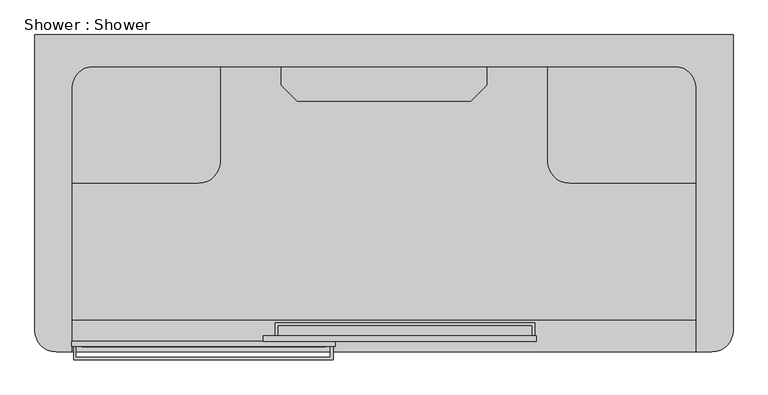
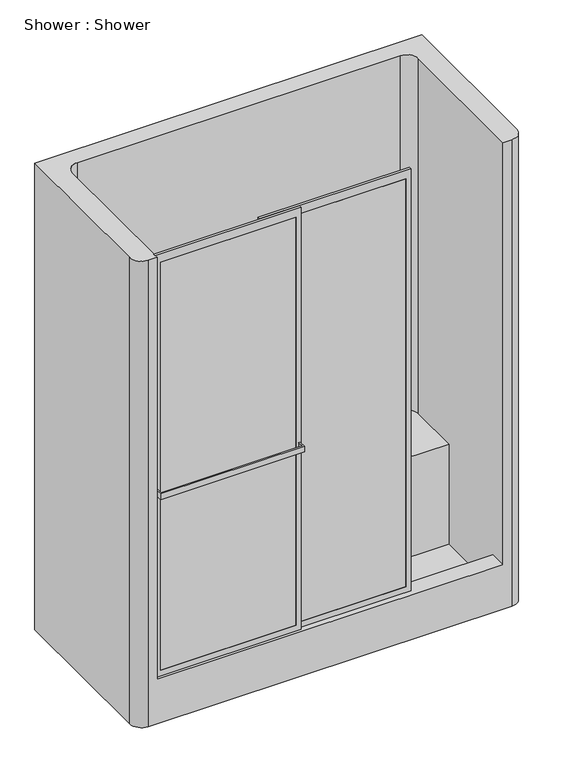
"""IFC4 building model written with IfcOpenShell, lengths in millimetres: flow terminal geometry, Shower : Shower."""

from ifc_helpers import new_model, si_unit, point, frame, frame_2d, origin, place, context, project, spatial, polyline, circle_curve, trimmed, segment, composite_curve, outline, extrude, faceted_brep, source, transform, mapped, element, save
from ifc_brep_helpers import plane_surface, cylinder_surface, revolved_surface, advanced_brep


def shower_shower_a77f1988(model_context):
    return source(origin(), model_context, "Body", "SolidModel", [
        extrude(outline(polyline([(-223.04375, -768.35), (399.9789404, -768.35), (399.9789404, -800.1), (393.6289404, -800.1), (393.6289404, -774.7), (-217.4344719, -774.7), (-217.4344719, -800.1), (-223.04375, -800.1), (-223.04375, -768.35)])), frame((0.0, 0.0, 1036.0429691), z_axis=(0.0, 0.0, 1.0), x_axis=(1.0, 0.0, 0.0)), (0.0, 0.0, 1.0), 25.4),
        extrude(outline(polyline([(-707.23125, -857.25), (-707.23125, -825.5), (-701.6219719, -825.5), (-701.6219719, -850.9), (-90.5585596, -850.9), (-90.5585596, -825.5), (-84.2085596, -825.5), (-84.2085596, -857.25), (-707.23125, -857.25)])), frame((0.0, 0.0, 1036.0429691), z_axis=(0.0, 0.0, 1.0), x_axis=(1.0, 0.0, 0.0)), (0.0, 0.0, 1.0), 25.4),
        extrude(outline(polyline([(2133.6, 403.1759501), (2133.6, -251.8674756), (203.2, -251.8674756), (203.2, 403.1759501), (2133.6, 403.1759501)]), holes=[polyline([(2095.2762363, 381.0), (229.410232, 381.0), (229.410232, -228.6), (2095.2762363, -228.6), (2095.2762363, 381.0)])]), frame((0.0, -812.8, 0.0), z_axis=(0.0, 1.0, 0.0), x_axis=(0.0, 0.0, 1.0)), (0.0, 0.0, 1.0), 12.7),
        extrude(outline(polyline([(381.0, -812.8), (-228.6, -812.8), (-228.6, -800.1), (381.0, -800.1), (381.0, -812.8)])), frame((0.0, 0.0, 229.410232), z_axis=(0.0, 0.0, 1.0), x_axis=(1.0, 0.0, 0.0)), (0.0, 0.0, 1.0), 1865.8660043),
        extrude(outline(polyline([(2133.6, -79.095103), (2133.6, -711.2), (203.2, -711.2), (203.2, -79.095103), (2133.6, -79.095103)]), holes=[polyline([(2095.2762363, -101.6), (229.410232, -101.6), (229.410232, -687.4742901), (2095.2762363, -687.4742901), (2095.2762363, -101.6)])]), frame((0.0, -825.5, 0.0), z_axis=(0.0, 1.0, 0.0), x_axis=(0.0, 0.0, 1.0)), (0.0, 0.0, 1.0), 12.7),
        extrude(outline(polyline([(-101.6, -825.5), (-687.4742901, -825.5), (-687.4742901, -812.8), (-101.6, -812.8), (-101.6, -825.5)])), frame((0.0, 0.0, 229.410232), z_axis=(0.0, 0.0, 1.0), x_axis=(1.0, 0.0, 0.0)), (0.0, 0.0, 1.0), 1865.8660043),
        faceted_brep([(-208.4605122, -196.85, 1389.3112655), (-170.3605122, -234.95, 1389.3112655), (246.5605122, -234.95, 1389.3112655), (284.6605122, -196.85, 1389.3112655), (284.6605122, -152.4, 1389.3112655), (-208.4605122, -152.4, 1389.3112655), (-208.4605122, -196.85, 625.0857334), (-208.4605122, -152.4, 625.0857334), (284.6605122, -152.4, 625.0857334), (284.6605122, -196.85, 625.0857334), (246.5605122, -234.95, 625.0857334), (-170.3605122, -234.95, 625.0857334), (-170.3605122, -234.95, 660.4), (-190.5, -214.8105122, 660.4), (-190.5, -214.8105122, 863.6), (-170.3605122, -234.95, 863.6), (-170.3605122, -234.95, 908.05), (-190.5, -214.8105122, 908.05), (-190.5, -214.8105122, 1111.25), (-170.3605122, -234.95, 1111.25), (-170.3605122, -234.95, 1162.05), (-190.5, -214.8105122, 1162.05), (-190.5, -214.8105122, 1365.25), (-170.3605122, -234.95, 1365.25), (246.5605122, -234.95, 1365.25), (246.5605122, -234.95, 660.4), (246.5605122, -234.95, 863.6), (246.5605122, -234.95, 908.05), (246.5605122, -234.95, 1111.25), (246.5605122, -234.95, 1162.05), (266.7, -214.8105122, 1365.25), (266.7, -214.8105122, 1162.05), (266.7, -214.8105122, 1111.25), (266.7, -214.8105122, 908.05), (266.7, -214.8105122, 863.6), (266.7, -214.8105122, 660.4), (266.7, -163.5489759, 660.4), (266.7, -163.5489759, 863.6), (-190.5, -163.5489759, 863.6), (-190.5, -163.5489759, 660.4), (266.7, -163.5489759, 908.05), (266.7, -163.5489759, 1111.25), (-190.5, -163.5489759, 1111.25), (-190.5, -163.5489759, 908.05), (266.7, -163.5489759, 1162.05), (266.7, -163.5489759, 1365.25), (-190.5, -163.5489759, 1365.25), (-190.5, -163.5489759, 1162.05)], [[[0, 1, 2, 3, 4, 5]], [[6, 7, 8, 9, 10, 11]], [[1, 0, 6, 11, 12, 13, 14, 15, 16, 17, 18, 19, 20, 21, 22, 23]], [[2, 1, 23, 24]], [[11, 10, 25, 12]], [[16, 15, 26, 27]], [[20, 19, 28, 29]], [[3, 2, 24, 30, 31, 29, 28, 32, 33, 27, 26, 34, 35, 25, 10, 9]], [[4, 3, 9, 8]], [[5, 4, 8, 7]], [[0, 5, 7, 6]], [[36, 37, 38, 39]], [[40, 41, 42, 43]], [[44, 45, 46, 47]], [[36, 39, 13, 12, 25, 35]], [[39, 38, 14, 13]], [[38, 37, 34, 26, 15, 14]], [[37, 36, 35, 34]], [[40, 43, 17, 16, 27, 33]], [[43, 42, 18, 17]], [[42, 41, 32, 28, 19, 18]], [[41, 40, 33, 32]], [[44, 47, 21, 20, 29, 31]], [[47, 46, 22, 21]], [[46, 45, 30, 24, 23, 22]], [[45, 44, 31, 30]]]),
        extrude(outline(composite_curve([segment(polyline([(-406.4, -431.8), (-711.2, -431.8), (-711.2, -152.4), (-355.6, -152.4), (-355.6, -381.0)]), True, "CONTINUOUS"), segment(trimmed(circle_curve(frame_2d((-406.4, -381.0)), 50.8), [point((-355.6, -381.0))], [point((-406.4, -431.8))], False, "CARTESIAN"), True, "CONTINUOUS")], self_intersect=False)), frame((0.0, 0.0, 50.8), z_axis=(0.0, 0.0, 1.0), x_axis=(1.0, 0.0, 0.0)), (0.0, 0.0, 1.0), 457.2),
        extrude(outline(composite_curve([segment(trimmed(circle_curve(frame_2d((482.6, -381.0)), 50.8), [point((482.6, -431.8))], [point((431.8, -381.0))], False, "CARTESIAN"), True, "CONTINUOUS"), segment(polyline([(431.8, -381.0), (431.8, -152.4), (787.4, -152.4), (787.4, -431.8), (482.6, -431.8)]), True, "CONTINUOUS")], self_intersect=False)), frame((0.0, 0.0, 50.8), z_axis=(0.0, 0.0, 1.0), x_axis=(1.0, 0.0, 0.0)), (0.0, 0.0, 1.0), 457.2),
        advanced_brep(
        [(-800.1, -787.4, 2133.6), (-749.3, -838.2, 2133.6), (-711.2, -838.2, 2133.6), (-711.2, -203.2, 2133.6), (-660.4, -152.4, 2133.6), (736.6, -152.4, 2133.6), (787.4, -203.2, 2133.6), (787.4, -838.2, 2133.6), (825.5, -838.2, 2133.6), (876.3, -787.4, 2133.6), (876.3, -76.2, 2133.6), (-800.1, -76.2, 2133.6), (-800.1, -787.4, 0.0), (-800.1, -76.2, 0.0), (876.3, -76.2, 0.0), (876.3, -787.4, 0.0), (825.5, -838.2, 0.0), (-749.3, -838.2, 0.0), (787.4, -838.2, 203.2), (-711.2, -838.2, 203.2), (787.4, -762.0, 203.2), (-711.2, -762.0, 203.2), (787.4, -203.2, 203.2), (787.4, -152.4, 203.2), (787.4, -152.4, 50.8), (787.4, -762.0, 50.8), (-711.2, -203.2, 203.2), (-711.2, -762.0, 50.8), (-711.2, -152.4, 50.8), (-711.2, -152.4, 203.2), (-660.4, -152.4, 203.2), (736.6, -152.4, 203.2)],
        [
            (0, 1, circle_curve(frame((-749.3, -787.4, 2133.6), z_axis=(0.0, 0.0, 1.0), x_axis=(1.0, 0.0, 0.0)), 50.8)),
            (1, 2),
            (2, 3),
            (3, 4, circle_curve(frame((-660.4, -203.2, 2133.6), z_axis=(0.0, 0.0, -1.0), x_axis=(-1.0, 0.0, 0.0)), 50.8)),
            (4, 5),
            (5, 6, circle_curve(frame((736.6, -203.2, 2133.6), z_axis=(0.0, 0.0, -1.0), x_axis=(-1.0, 0.0, 0.0)), 50.8)),
            (6, 7),
            (7, 8),
            (8, 9, circle_curve(frame((825.5, -787.4, 2133.6), z_axis=(0.0, 0.0, 1.0), x_axis=(1.0, 0.0, 0.0)), 50.8)),
            (9, 10),
            (10, 11),
            (11, 0),
            (12, 13),
            (13, 14),
            (14, 15),
            (15, 16, circle_curve(frame((825.5, -787.4, 0.0), z_axis=(0.0, 0.0, -1.0), x_axis=(1.0, 0.0, 0.0)), 50.8)),
            (16, 17),
            (17, 12, circle_curve(frame((-749.3, -787.4, 0.0), z_axis=(0.0, 0.0, -1.0), x_axis=(1.0, 0.0, 0.0)), 50.8)),
            (0, 12),
            (17, 1),
            (16, 8),
            (7, 18),
            (18, 19),
            (19, 2),
            (15, 9),
            (14, 10),
            (13, 11),
            (18, 20),
            (20, 21),
            (21, 19),
            (6, 22),
            (22, 23),
            (23, 24),
            (24, 25),
            (25, 20),
            (26, 3),
            (21, 27),
            (27, 28),
            (28, 29),
            (29, 26),
            (26, 30, circle_curve(frame((-660.4, -203.2, 203.2), z_axis=(0.0, 0.0, -1.0), x_axis=(-1.0, 0.0, 0.0)), 50.8)),
            (30, 4),
            (30, 29),
            (28, 24),
            (23, 31),
            (31, 5),
            (31, 22, circle_curve(frame((736.6, -203.2, 203.2), z_axis=(0.0, 0.0, -1.0), x_axis=(-1.0, 0.0, 0.0)), 50.8)),
            (27, 25),
        ],
        [
            plane_surface(frame((-698.5, -787.4, 2133.6), z_axis=(0.0, 0.0, 1.0), x_axis=(0.0, 1.0, 0.0))),
            plane_surface(frame((-698.5, -787.4, 0.0), z_axis=(0.0, 0.0, -1.0), x_axis=(0.0, -1.0, 0.0))),
            cylinder_surface(frame((-749.3, -787.4, 0.0), z_axis=(0.0, 0.0, 1.0), x_axis=(1.0, 0.0, 0.0)), 50.8),
            plane_surface(frame((-749.3, -838.2, 2133.6), z_axis=(0.0, -1.0, 0.0), x_axis=(0.0, 0.0, -1.0))),
            cylinder_surface(frame((825.5, -787.4, 0.0), z_axis=(0.0, 0.0, 1.0), x_axis=(1.0, 0.0, 0.0)), 50.8),
            plane_surface(frame((876.3, -787.4, 2133.6), z_axis=(1.0, 0.0, 0.0), x_axis=(0.0, 0.0, -1.0))),
            plane_surface(frame((876.3, -76.2, 2133.6), z_axis=(0.0, 1.0, 0.0), x_axis=(0.0, 0.0, -1.0))),
            plane_surface(frame((-800.1, -76.2, 2133.6), z_axis=(-1.0, 0.0, 0.0), x_axis=(0.0, 0.0, -1.0))),
            plane_surface(frame((787.4, -685.8, 203.2), z_axis=(0.0, 0.0, 1.0), x_axis=(0.0, -1.0, 0.0))),
            plane_surface(frame((787.4, -203.2, 203.2), z_axis=(-1.0, 0.0, 0.0), x_axis=(0.0, 0.0, 1.0))),
            plane_surface(frame((-711.2, -838.2, 203.2), z_axis=(1.0, 0.0, 0.0), x_axis=(0.0, 0.0, 1.0))),
            revolved_surface(polyline([(-711.1999999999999, -203.2, 203.20000000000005), (-711.1999999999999, -203.2, 2133.6)]), (-660.4, -203.2, 2133.6), (0.0, 0.0, -1.0)),
            plane_surface(frame((-660.4, -152.4, 203.2), z_axis=(0.0, -1.0, 0.0), x_axis=(0.0, 0.0, 1.0))),
            revolved_surface(polyline([(685.8000000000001, -203.2, 203.20000000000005), (685.8000000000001, -203.2, 2133.6)]), (736.6, -203.2, 2133.6), (0.0, 0.0, -1.0)),
            plane_surface(frame((-711.2, -635.0, 50.8), z_axis=(0.0, 0.0, 1.0), x_axis=(0.0, 1.0, 0.0))),
            plane_surface(frame((-711.2, -635.0, 203.2), z_axis=(0.0, 0.0, -1.0), x_axis=(0.0, -1.0, 0.0))),
            plane_surface(frame((787.4, -762.0, 50.8), z_axis=(0.0, 1.0, 0.0), x_axis=(0.0, 0.0, 1.0))),
        ],
        [
            (0, [[1, 2, 3, 4, 5, 6, 7, 8, 9, 10, 11, 12]]),
            (1, [[13, 14, 15, 16, 17, 18]]),
            (2, [[-1, 19, -18, 20]]),
            (3, [[-17, 21, -8, 22, 23, 24, -2, -20]]),
            (4, [[-9, -21, -16, 25]]),
            (5, [[-10, -25, -15, 26]]),
            (6, [[-11, -26, -14, 27]]),
            (7, [[-12, -27, -13, -19]]),
            (8, [[-23, 28, 29, 30]]),
            (9, [[31, 32, 33, 34, 35, -28, -22, -7]]),
            (10, [[36, -3, -24, -30, 37, 38, 39, 40]]),
            (11, [[-36, 41, 42, -4]]),
            (12, [[-42, 43, -39, 44, -33, 45, 46, -5]]),
            (13, [[-31, -6, -46, 47]]),
            (14, [[48, -34, -44, -38]]),
            (15, [[-32, -47, -45]]),
            (15, [[-43, -41, -40]]),
            (16, [[-48, -37, -29, -35]]),
        ],
    ),
    ])


if __name__ == "__main__":
    model = new_model("IFC4")
    model_context = context("Model", 3, world=origin())
    ifc_project = project(units=[si_unit("LENGTHUNIT", "METRE", prefix="MILLI")], contexts=[model_context])
    site = spatial("IfcSite", under=ifc_project)
    building = spatial("IfcBuilding", under=site)
    placement = place(None, origin())
    shower_shower_shape = shower_shower_a77f1988(model_context)
    element("IfcFlowTerminal", 1, ObjectType="Shower : Shower", at=placement, inside=building, context=model_context, shape_type="MappedRepresentation", body=[
        mapped(shower_shower_shape, transform((0.0, 0.0, 0.0), x_axis=(1.0, 0.0, 0.0), y_axis=(0.0, 1.0, 0.0), z_axis=(0.0, 0.0, 1.0))),
    ])
    save(model, "model.ifc")
